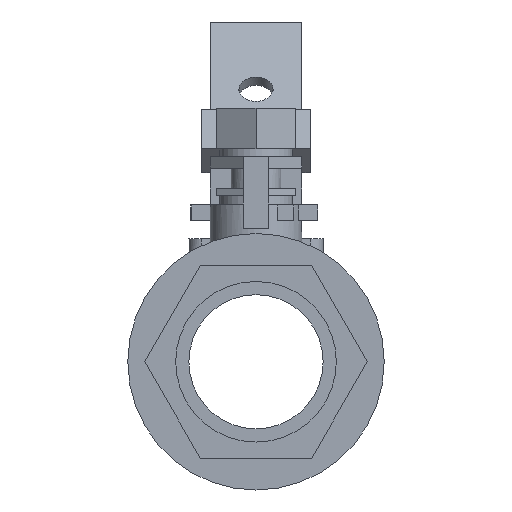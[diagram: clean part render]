
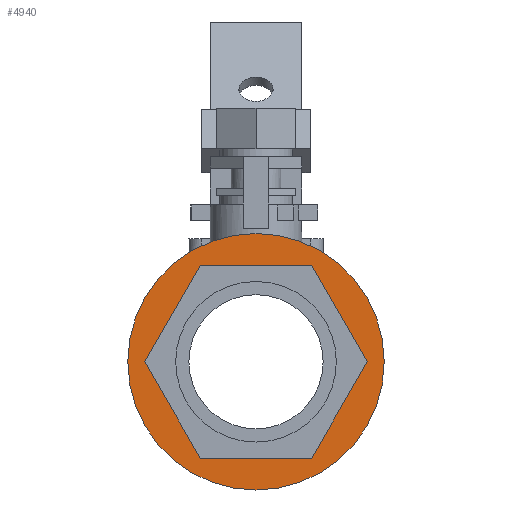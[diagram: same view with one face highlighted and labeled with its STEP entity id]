
A CAD part, left-side view. The second image highlights one B-rep face of the part: STEP entity #4940.
In plain terms, the highlighted planar face has unit normal (-1, 0, 0).
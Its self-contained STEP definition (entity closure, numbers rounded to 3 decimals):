
#3905 = EDGE_CURVE('',#3906,#3908,#3910,.T.);
#3906 = VERTEX_POINT('',#3907);
#3907 = CARTESIAN_POINT('',(0.575,-0.523,0.905));
#3908 = VERTEX_POINT('',#3909);
#3909 = CARTESIAN_POINT('',(0.575,-1.045,0.));
#3910 = SURFACE_CURVE('',#3911,(#3915,#3927),.PCURVE_S1.);
#3911 = LINE('',#3912,#3913);
#3912 = CARTESIAN_POINT('',(0.575,-0.784,0.453));
#3913 = VECTOR('',#3914,1.);
#3914 = DIRECTION('',(0.,-0.5,-0.866));
#3915 = PCURVE('',#3916,#3921);
#3916 = PLANE('',#3917);
#3917 = AXIS2_PLACEMENT_3D('',#3918,#3919,#3920);
#3918 = CARTESIAN_POINT('',(0.,-0.784,0.453));
#3919 = DIRECTION('',(0.,-0.866,0.5));
#3920 = DIRECTION('',(0.,-0.5,-0.866));
#3921 = DEFINITIONAL_REPRESENTATION('',(#3922),#3926);
#3922 = LINE('',#3923,#3924);
#3923 = CARTESIAN_POINT('',(0.,0.575));
#3924 = VECTOR('',#3925,1.);
#3925 = DIRECTION('',(1.,0.));
#3926 = ( GEOMETRIC_REPRESENTATION_CONTEXT(2) 
PARAMETRIC_REPRESENTATION_CONTEXT() REPRESENTATION_CONTEXT('2D SPACE',''
  ) );
#3927 = PCURVE('',#3928,#3933);
#3928 = PLANE('',#3929);
#3929 = AXIS2_PLACEMENT_3D('',#3930,#3931,#3932);
#3930 = CARTESIAN_POINT('',(0.575,0.,
    0.));
#3931 = DIRECTION('',(-1.,0.,0.));
#3932 = DIRECTION('',(0.,0.,1.));
#3933 = DEFINITIONAL_REPRESENTATION('',(#3934),#3938);
#3934 = LINE('',#3935,#3936);
#3935 = CARTESIAN_POINT('',(0.453,-0.784));
#3936 = VECTOR('',#3937,1.);
#3937 = DIRECTION('',(-0.866,-0.5));
#3938 = ( GEOMETRIC_REPRESENTATION_CONTEXT(2) 
PARAMETRIC_REPRESENTATION_CONTEXT() REPRESENTATION_CONTEXT('2D SPACE',''
  ) );
#3956 = PLANE('',#3957);
#3957 = AXIS2_PLACEMENT_3D('',#3958,#3959,#3960);
#3958 = CARTESIAN_POINT('',(0.,0.,0.905));
#3959 = DIRECTION('',(0.,0.,1.));
#3960 = DIRECTION('',(0.,-1.,0.));
#4005 = PLANE('',#4006);
#4006 = AXIS2_PLACEMENT_3D('',#4007,#4008,#4009);
#4007 = CARTESIAN_POINT('',(0.,-0.784,-0.453));
#4008 = DIRECTION('',(0.,-0.866,-0.5));
#4009 = DIRECTION('',(0.,0.5,-0.866));
#4020 = EDGE_CURVE('',#4021,#3906,#4023,.T.);
#4021 = VERTEX_POINT('',#4022);
#4022 = CARTESIAN_POINT('',(0.575,0.523,0.905));
#4023 = SURFACE_CURVE('',#4024,(#4028,#4035),.PCURVE_S1.);
#4024 = LINE('',#4025,#4026);
#4025 = CARTESIAN_POINT('',(0.575,0.,0.905));
#4026 = VECTOR('',#4027,1.);
#4027 = DIRECTION('',(0.,-1.,0.));
#4028 = PCURVE('',#3956,#4029);
#4029 = DEFINITIONAL_REPRESENTATION('',(#4030),#4034);
#4030 = LINE('',#4031,#4032);
#4031 = CARTESIAN_POINT('',(0.,0.575));
#4032 = VECTOR('',#4033,1.);
#4033 = DIRECTION('',(1.,0.));
#4034 = ( GEOMETRIC_REPRESENTATION_CONTEXT(2) 
PARAMETRIC_REPRESENTATION_CONTEXT() REPRESENTATION_CONTEXT('2D SPACE',''
  ) );
#4035 = PCURVE('',#3928,#4036);
#4036 = DEFINITIONAL_REPRESENTATION('',(#4037),#4041);
#4037 = LINE('',#4038,#4039);
#4038 = CARTESIAN_POINT('',(0.905,0.));
#4039 = VECTOR('',#4040,1.);
#4040 = DIRECTION('',(0.,-1.));
#4041 = ( GEOMETRIC_REPRESENTATION_CONTEXT(2) 
PARAMETRIC_REPRESENTATION_CONTEXT() REPRESENTATION_CONTEXT('2D SPACE',''
  ) );
#4059 = PLANE('',#4060);
#4060 = AXIS2_PLACEMENT_3D('',#4061,#4062,#4063);
#4061 = CARTESIAN_POINT('',(0.,0.784,0.453));
#4062 = DIRECTION('',(0.,0.866,0.5));
#4063 = DIRECTION('',(0.,-0.5,0.866));
#4096 = EDGE_CURVE('',#4097,#4021,#4099,.T.);
#4097 = VERTEX_POINT('',#4098);
#4098 = CARTESIAN_POINT('',(0.575,1.045,0.));
#4099 = SURFACE_CURVE('',#4100,(#4104,#4111),.PCURVE_S1.);
#4100 = LINE('',#4101,#4102);
#4101 = CARTESIAN_POINT('',(0.575,0.784,0.453));
#4102 = VECTOR('',#4103,1.);
#4103 = DIRECTION('',(0.,-0.5,0.866));
#4104 = PCURVE('',#4059,#4105);
#4105 = DEFINITIONAL_REPRESENTATION('',(#4106),#4110);
#4106 = LINE('',#4107,#4108);
#4107 = CARTESIAN_POINT('',(0.,0.575));
#4108 = VECTOR('',#4109,1.);
#4109 = DIRECTION('',(1.,0.));
#4110 = ( GEOMETRIC_REPRESENTATION_CONTEXT(2) 
PARAMETRIC_REPRESENTATION_CONTEXT() REPRESENTATION_CONTEXT('2D SPACE',''
  ) );
#4111 = PCURVE('',#3928,#4112);
#4112 = DEFINITIONAL_REPRESENTATION('',(#4113),#4117);
#4113 = LINE('',#4114,#4115);
#4114 = CARTESIAN_POINT('',(0.453,0.784));
#4115 = VECTOR('',#4116,1.);
#4116 = DIRECTION('',(0.866,-0.5));
#4117 = ( GEOMETRIC_REPRESENTATION_CONTEXT(2) 
PARAMETRIC_REPRESENTATION_CONTEXT() REPRESENTATION_CONTEXT('2D SPACE',''
  ) );
#4135 = PLANE('',#4136);
#4136 = AXIS2_PLACEMENT_3D('',#4137,#4138,#4139);
#4137 = CARTESIAN_POINT('',(0.,0.784,-0.453));
#4138 = DIRECTION('',(0.,0.866,-0.5));
#4139 = DIRECTION('',(0.,0.5,0.866));
#4172 = EDGE_CURVE('',#4173,#4097,#4175,.T.);
#4173 = VERTEX_POINT('',#4174);
#4174 = CARTESIAN_POINT('',(0.575,0.523,-0.905));
#4175 = SURFACE_CURVE('',#4176,(#4180,#4187),.PCURVE_S1.);
#4176 = LINE('',#4177,#4178);
#4177 = CARTESIAN_POINT('',(0.575,0.784,-0.453));
#4178 = VECTOR('',#4179,1.);
#4179 = DIRECTION('',(0.,0.5,0.866));
#4180 = PCURVE('',#4135,#4181);
#4181 = DEFINITIONAL_REPRESENTATION('',(#4182),#4186);
#4182 = LINE('',#4183,#4184);
#4183 = CARTESIAN_POINT('',(0.,0.575));
#4184 = VECTOR('',#4185,1.);
#4185 = DIRECTION('',(1.,0.));
#4186 = ( GEOMETRIC_REPRESENTATION_CONTEXT(2) 
PARAMETRIC_REPRESENTATION_CONTEXT() REPRESENTATION_CONTEXT('2D SPACE',''
  ) );
#4187 = PCURVE('',#3928,#4188);
#4188 = DEFINITIONAL_REPRESENTATION('',(#4189),#4193);
#4189 = LINE('',#4190,#4191);
#4190 = CARTESIAN_POINT('',(-0.453,0.784));
#4191 = VECTOR('',#4192,1.);
#4192 = DIRECTION('',(0.866,0.5));
#4193 = ( GEOMETRIC_REPRESENTATION_CONTEXT(2) 
PARAMETRIC_REPRESENTATION_CONTEXT() REPRESENTATION_CONTEXT('2D SPACE',''
  ) );
#4211 = PLANE('',#4212);
#4212 = AXIS2_PLACEMENT_3D('',#4213,#4214,#4215);
#4213 = CARTESIAN_POINT('',(0.,0.,-0.905));
#4214 = DIRECTION('',(0.,0.,-1.));
#4215 = DIRECTION('',(0.,1.,0.));
#4248 = EDGE_CURVE('',#4249,#4173,#4251,.T.);
#4249 = VERTEX_POINT('',#4250);
#4250 = CARTESIAN_POINT('',(0.575,-0.523,-0.905));
#4251 = SURFACE_CURVE('',#4252,(#4256,#4263),.PCURVE_S1.);
#4252 = LINE('',#4253,#4254);
#4253 = CARTESIAN_POINT('',(0.575,0.,-0.905));
#4254 = VECTOR('',#4255,1.);
#4255 = DIRECTION('',(0.,1.,0.));
#4256 = PCURVE('',#4211,#4257);
#4257 = DEFINITIONAL_REPRESENTATION('',(#4258),#4262);
#4258 = LINE('',#4259,#4260);
#4259 = CARTESIAN_POINT('',(0.,0.575));
#4260 = VECTOR('',#4261,1.);
#4261 = DIRECTION('',(1.,0.));
#4262 = ( GEOMETRIC_REPRESENTATION_CONTEXT(2) 
PARAMETRIC_REPRESENTATION_CONTEXT() REPRESENTATION_CONTEXT('2D SPACE',''
  ) );
#4263 = PCURVE('',#3928,#4264);
#4264 = DEFINITIONAL_REPRESENTATION('',(#4265),#4269);
#4265 = LINE('',#4266,#4267);
#4266 = CARTESIAN_POINT('',(-0.905,0.));
#4267 = VECTOR('',#4268,1.);
#4268 = DIRECTION('',(0.,1.));
#4269 = ( GEOMETRIC_REPRESENTATION_CONTEXT(2) 
PARAMETRIC_REPRESENTATION_CONTEXT() REPRESENTATION_CONTEXT('2D SPACE',''
  ) );
#4319 = EDGE_CURVE('',#3908,#4249,#4320,.T.);
#4320 = SURFACE_CURVE('',#4321,(#4325,#4332),.PCURVE_S1.);
#4321 = LINE('',#4322,#4323);
#4322 = CARTESIAN_POINT('',(0.575,-0.784,-0.453));
#4323 = VECTOR('',#4324,1.);
#4324 = DIRECTION('',(0.,0.5,-0.866));
#4325 = PCURVE('',#4005,#4326);
#4326 = DEFINITIONAL_REPRESENTATION('',(#4327),#4331);
#4327 = LINE('',#4328,#4329);
#4328 = CARTESIAN_POINT('',(0.,0.575));
#4329 = VECTOR('',#4330,1.);
#4330 = DIRECTION('',(1.,0.));
#4331 = ( GEOMETRIC_REPRESENTATION_CONTEXT(2) 
PARAMETRIC_REPRESENTATION_CONTEXT() REPRESENTATION_CONTEXT('2D SPACE',''
  ) );
#4332 = PCURVE('',#3928,#4333);
#4333 = DEFINITIONAL_REPRESENTATION('',(#4334),#4338);
#4334 = LINE('',#4335,#4336);
#4335 = CARTESIAN_POINT('',(-0.453,-0.784));
#4336 = VECTOR('',#4337,1.);
#4337 = DIRECTION('',(-0.866,0.5));
#4338 = ( GEOMETRIC_REPRESENTATION_CONTEXT(2) 
PARAMETRIC_REPRESENTATION_CONTEXT() REPRESENTATION_CONTEXT('2D SPACE',''
  ) );
#4940 = ADVANCED_FACE('',(#4941,#4949),#3928,.T.);
#4941 = FACE_BOUND('',#4942,.T.);
#4942 = EDGE_LOOP('',(#4943,#4944,#4945,#4946,#4947,#4948));
#4943 = ORIENTED_EDGE('',*,*,#3905,.T.);
#4944 = ORIENTED_EDGE('',*,*,#4319,.T.);
#4945 = ORIENTED_EDGE('',*,*,#4248,.T.);
#4946 = ORIENTED_EDGE('',*,*,#4172,.T.);
#4947 = ORIENTED_EDGE('',*,*,#4096,.T.);
#4948 = ORIENTED_EDGE('',*,*,#4020,.T.);
#4949 = FACE_BOUND('',#4950,.T.);
#4950 = EDGE_LOOP('',(#4951));
#4951 = ORIENTED_EDGE('',*,*,#4952,.T.);
#4952 = EDGE_CURVE('',#4953,#4953,#4955,.T.);
#4953 = VERTEX_POINT('',#4954);
#4954 = CARTESIAN_POINT('',(0.575,-1.204,0.));
#4955 = SURFACE_CURVE('',#4956,(#4961,#4968),.PCURVE_S1.);
#4956 = CIRCLE('',#4957,1.204);
#4957 = AXIS2_PLACEMENT_3D('',#4958,#4959,#4960);
#4958 = CARTESIAN_POINT('',(0.575,0.,
    0.));
#4959 = DIRECTION('',(-1.,0.,0.));
#4960 = DIRECTION('',(0.,-1.,0.));
#4961 = PCURVE('',#3928,#4962);
#4962 = DEFINITIONAL_REPRESENTATION('',(#4963),#4967);
#4963 = CIRCLE('',#4964,1.204);
#4964 = AXIS2_PLACEMENT_2D('',#4965,#4966);
#4965 = CARTESIAN_POINT('',(0.,0.));
#4966 = DIRECTION('',(0.,-1.));
#4967 = ( GEOMETRIC_REPRESENTATION_CONTEXT(2) 
PARAMETRIC_REPRESENTATION_CONTEXT() REPRESENTATION_CONTEXT('2D SPACE',''
  ) );
#4968 = PCURVE('',#4969,#4974);
#4969 = CYLINDRICAL_SURFACE('',#4970,1.204);
#4970 = AXIS2_PLACEMENT_3D('',#4971,#4972,#4973);
#4971 = CARTESIAN_POINT('',(0.575,0.,
    0.));
#4972 = DIRECTION('',(1.,0.,0.));
#4973 = DIRECTION('',(0.,-1.,0.));
#4974 = DEFINITIONAL_REPRESENTATION('',(#4975),#4979);
#4975 = LINE('',#4976,#4977);
#4976 = CARTESIAN_POINT('',(6.283,0.));
#4977 = VECTOR('',#4978,1.);
#4978 = DIRECTION('',(-1.,0.));
#4979 = ( GEOMETRIC_REPRESENTATION_CONTEXT(2) 
PARAMETRIC_REPRESENTATION_CONTEXT() REPRESENTATION_CONTEXT('2D SPACE',''
  ) );
